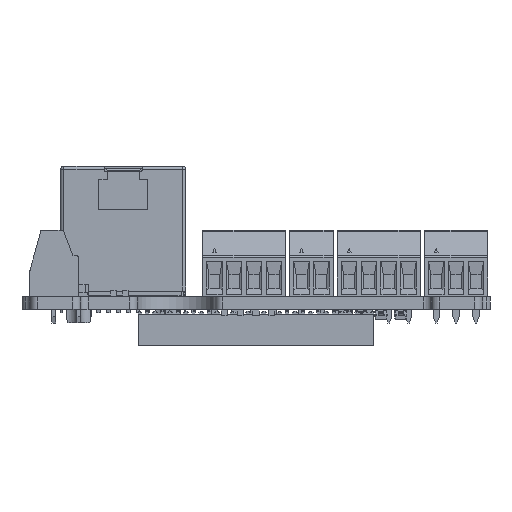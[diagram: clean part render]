
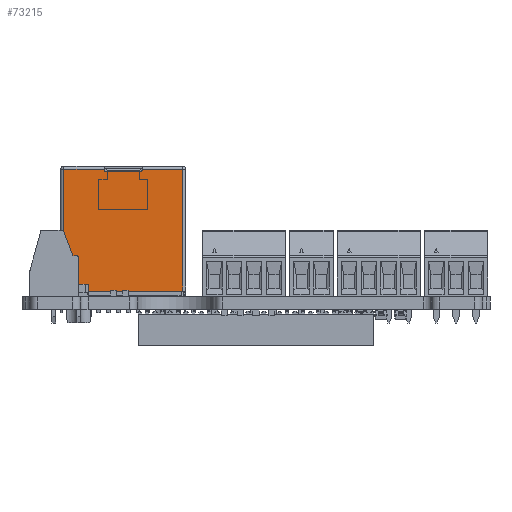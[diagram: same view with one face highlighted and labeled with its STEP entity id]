
A CAD part, front view. The second image highlights one B-rep face of the part: STEP entity #73215.
In plain terms, the highlighted planar face has unit normal (0, -1, 0) as drawn and (0, 1, 0) by its records, which use the part's own axes.
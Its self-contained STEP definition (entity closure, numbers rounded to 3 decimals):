
#73187 = VERTEX_POINT('',#73188);
#73188 = CARTESIAN_POINT('',(-7.625,8.35,-0.4));
#73197 = VERTEX_POINT('',#73198);
#73198 = CARTESIAN_POINT('',(-2.41,8.35,-0.4));
#73205 = EDGE_CURVE('',#73197,#73187,#73206,.T.);
#73206 = LINE('',#73207,#73208);
#73207 = CARTESIAN_POINT('',(-2.41,8.35,-0.4));
#73208 = VECTOR('',#73209,1.);
#73209 = DIRECTION('',(-1.,0.,0.));
#73215 = ADVANCED_FACE('',(#73216),#73291,.T.);
#73216 = FACE_BOUND('',#73217,.F.);
#73217 = EDGE_LOOP('',(#73218,#73219,#73227,#73235,#73243,#73251,#73259,
    #73268,#73276,#73285));
#73218 = ORIENTED_EDGE('',*,*,#73205,.T.);
#73219 = ORIENTED_EDGE('',*,*,#73220,.T.);
#73220 = EDGE_CURVE('',#73187,#73221,#73223,.T.);
#73221 = VERTEX_POINT('',#73222);
#73222 = CARTESIAN_POINT('',(-7.625,8.35,-16.));
#73223 = LINE('',#73224,#73225);
#73224 = CARTESIAN_POINT('',(-7.625,8.35,-0.4));
#73225 = VECTOR('',#73226,1.);
#73226 = DIRECTION('',(0.,0.,-1.));
#73227 = ORIENTED_EDGE('',*,*,#73228,.F.);
#73228 = EDGE_CURVE('',#73229,#73221,#73231,.T.);
#73229 = VERTEX_POINT('',#73230);
#73230 = CARTESIAN_POINT('',(7.625,8.35,-16.));
#73231 = LINE('',#73232,#73233);
#73232 = CARTESIAN_POINT('',(7.625,8.35,-16.));
#73233 = VECTOR('',#73234,1.);
#73234 = DIRECTION('',(-1.,0.,0.));
#73235 = ORIENTED_EDGE('',*,*,#73236,.F.);
#73236 = EDGE_CURVE('',#73237,#73229,#73239,.T.);
#73237 = VERTEX_POINT('',#73238);
#73238 = CARTESIAN_POINT('',(7.625,8.35,-0.4));
#73239 = LINE('',#73240,#73241);
#73240 = CARTESIAN_POINT('',(7.625,8.35,-0.4));
#73241 = VECTOR('',#73242,1.);
#73242 = DIRECTION('',(0.,0.,-1.));
#73243 = ORIENTED_EDGE('',*,*,#73244,.T.);
#73244 = EDGE_CURVE('',#73237,#73245,#73247,.T.);
#73245 = VERTEX_POINT('',#73246);
#73246 = CARTESIAN_POINT('',(2.41,8.35,-0.4));
#73247 = LINE('',#73248,#73249);
#73248 = CARTESIAN_POINT('',(7.625,8.35,-0.4));
#73249 = VECTOR('',#73250,1.);
#73250 = DIRECTION('',(-1.,0.,0.));
#73251 = ORIENTED_EDGE('',*,*,#73252,.F.);
#73252 = EDGE_CURVE('',#73253,#73245,#73255,.T.);
#73253 = VERTEX_POINT('',#73254);
#73254 = CARTESIAN_POINT('',(2.41,8.35,-0.536));
#73255 = LINE('',#73256,#73257);
#73256 = CARTESIAN_POINT('',(2.41,8.35,-0.536));
#73257 = VECTOR('',#73258,1.);
#73258 = DIRECTION('',(0.,0.,1.));
#73259 = ORIENTED_EDGE('',*,*,#73260,.F.);
#73260 = EDGE_CURVE('',#73261,#73253,#73263,.T.);
#73261 = VERTEX_POINT('',#73262);
#73262 = CARTESIAN_POINT('',(2.26,8.35,-0.686));
#73263 = CIRCLE('',#73264,0.15);
#73264 = AXIS2_PLACEMENT_3D('',#73265,#73266,#73267);
#73265 = CARTESIAN_POINT('',(2.26,8.35,-0.536));
#73266 = DIRECTION('',(0.,-1.,0.));
#73267 = DIRECTION('',(0.,0.,-1.));
#73268 = ORIENTED_EDGE('',*,*,#73269,.T.);
#73269 = EDGE_CURVE('',#73261,#73270,#73272,.T.);
#73270 = VERTEX_POINT('',#73271);
#73271 = CARTESIAN_POINT('',(-2.26,8.35,-0.686));
#73272 = LINE('',#73273,#73274);
#73273 = CARTESIAN_POINT('',(2.26,8.35,-0.686));
#73274 = VECTOR('',#73275,1.);
#73275 = DIRECTION('',(-1.,0.,0.));
#73276 = ORIENTED_EDGE('',*,*,#73277,.F.);
#73277 = EDGE_CURVE('',#73278,#73270,#73280,.T.);
#73278 = VERTEX_POINT('',#73279);
#73279 = CARTESIAN_POINT('',(-2.41,8.35,-0.536));
#73280 = CIRCLE('',#73281,0.15);
#73281 = AXIS2_PLACEMENT_3D('',#73282,#73283,#73284);
#73282 = CARTESIAN_POINT('',(-2.26,8.35,-0.536));
#73283 = DIRECTION('',(0.,-1.,0.));
#73284 = DIRECTION('',(-1.,0.,0.));
#73285 = ORIENTED_EDGE('',*,*,#73286,.F.);
#73286 = EDGE_CURVE('',#73197,#73278,#73287,.T.);
#73287 = LINE('',#73288,#73289);
#73288 = CARTESIAN_POINT('',(-2.41,8.35,-0.4));
#73289 = VECTOR('',#73290,1.);
#73290 = DIRECTION('',(0.,0.,-1.));
#73291 = PLANE('',#73292);
#73292 = AXIS2_PLACEMENT_3D('',#73293,#73294,#73295);
#73293 = CARTESIAN_POINT('',(8.025,8.35,0.));
#73294 = DIRECTION('',(0.,1.,0.));
#73295 = DIRECTION('',(-1.,0.,0.));
